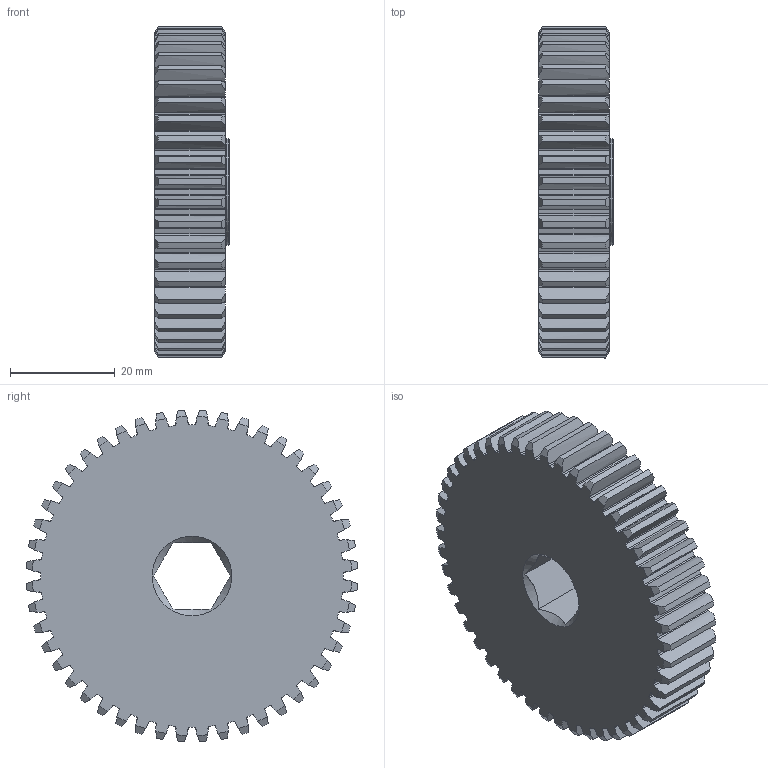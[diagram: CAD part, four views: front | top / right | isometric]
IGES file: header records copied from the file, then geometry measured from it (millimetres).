
Global section: file name: No Iges File Name specified; native system: AutoDesk Inventor R6.0; preprocessor: AutoDesk Inventor Iges Exporter R6.0; author: No Author specified; organization: No Organization specified; date: 20080103.185452; units: inch
Bounding box: 14.3 x 63.43 x 63.43 mm (x, y, z)
Surface area: 11384.1 mm2 (no closed solid volume)
Topology: 0 solids, 0 shells, 398 faces, 2381 edges, 2376 vertices
Faces by surface type: revolution 388, plane 9, bspline 1
